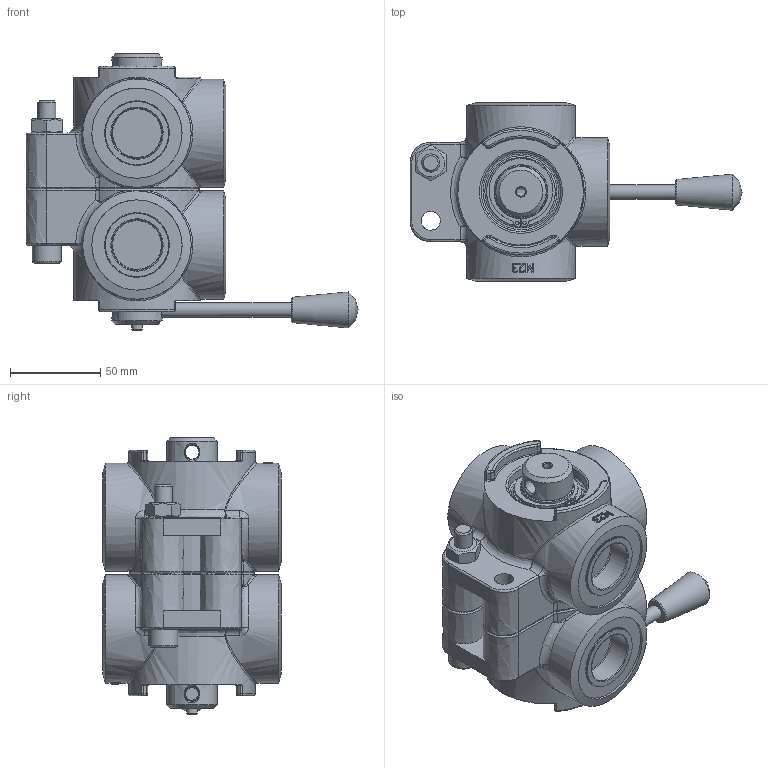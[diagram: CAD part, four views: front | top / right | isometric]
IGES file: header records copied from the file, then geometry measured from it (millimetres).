
Global section: file name: No Iges File Name specified; native system: Autodesk Inventor 2013; preprocessor: AutoDesk Inventor Iges Exporter R2013; author: christian.scardovi; date: 20240903.122146; units: millimetre
Bounding box: 184 x 98.66 x 153.25 mm (x, y, z)
Volume: 719862.3 mm3; surface area: 132132.9 mm2
Topology: 7 solids, 7 shells, 674 faces, 1598 edges, 965 vertices
Faces by surface type: bspline 674
